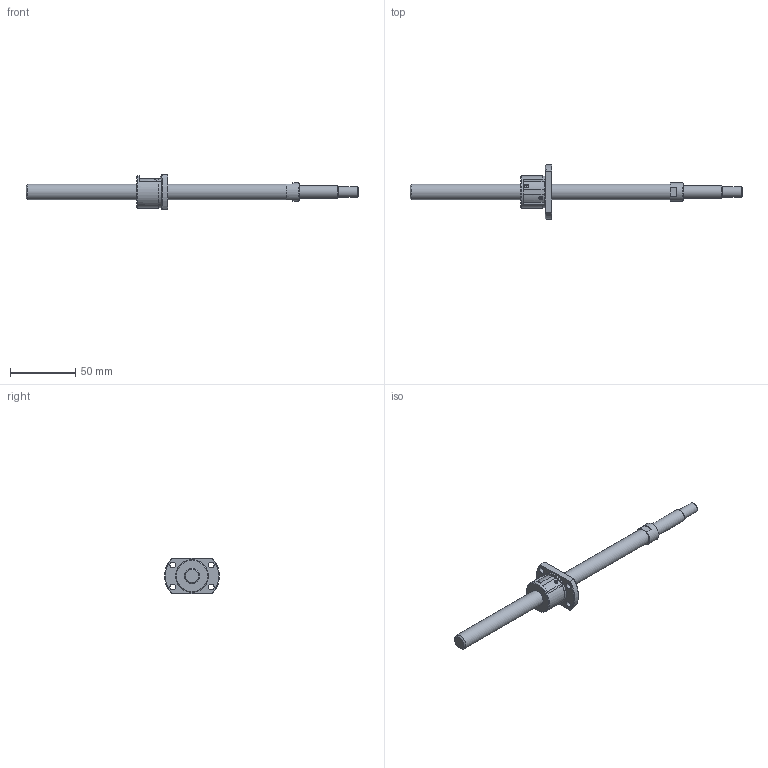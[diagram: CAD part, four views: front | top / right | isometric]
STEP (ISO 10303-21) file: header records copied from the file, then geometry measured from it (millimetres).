
FILE_DESCRIPTION(/* description */ ('STEP AP214'),/* implementation_level */ '2;1');
FILE_NAME(/* name */ 'SRT1202-196R255C7A0X(85Processing)',/* time_stamp */ '2026-08-06T15:12:12+02:00',/* author */ ('License CC BY-ND 4.0'),/* organization */ ('CADENAS'),/* preprocessor_version */ 'ST-DEVELOPER v20',/* originating_system */ 'PARTsolutions',/* authorisation */ ' ');
FILE_SCHEMA (('AUTOMOTIVE_DESIGN {1 0 10303 214 3 1 1}'));
Length unit declared in the file: millimetre
Products named in the file (3): SRT1202-196R255C7A0X(85Processing); SRT1202-196R270ACt7Processing77Shaft; SRT1202Nut
Assembly tree (2 placements, depth 2):
  SRT1202-196R255C7A0X(85Processing)
    SRT1202-196R270ACt7Processing77Shaft
    SRT1202Nut
Bounding box: 255 x 42 x 27 mm (x, y, z)
Volume: 38079.4 mm3; surface area: 14606.3 mm2
Topology: 2 solids, 2 shells, 70 faces, 166 edges, 105 vertices
Faces by surface type: plane 43, cylinder 15, cone 11, torus 1
Full cylindrical faces by diameter (mm): 4.5 x4, 8 x1, 10 x1, 12 x2, 14 x1, 24.5 x1, 25 x1
Entity records: 1955 total; most frequent: CARTESIAN_POINT 351, DIRECTION 332, ORIENTED_EDGE 276, EDGE_CURVE 138, AXIS2_PLACEMENT_3D 131, EDGE_LOOP 104, FACE_BOUND 104, VERTEX_POINT 96
